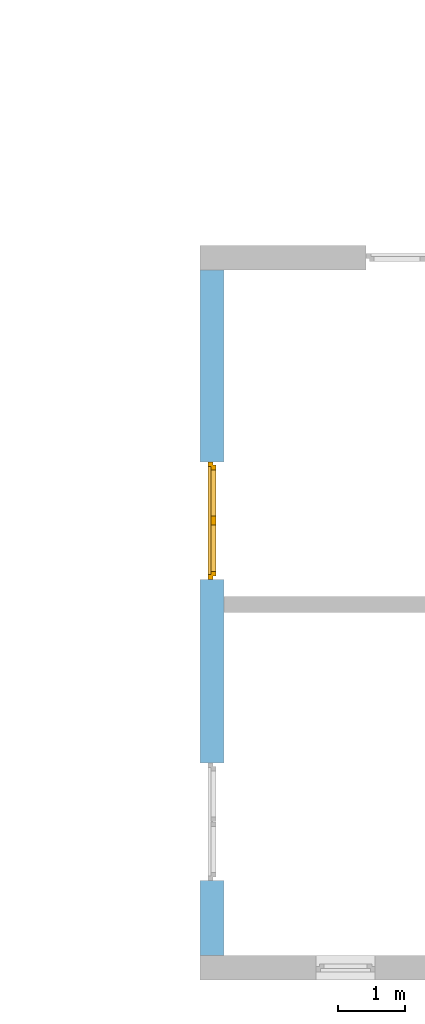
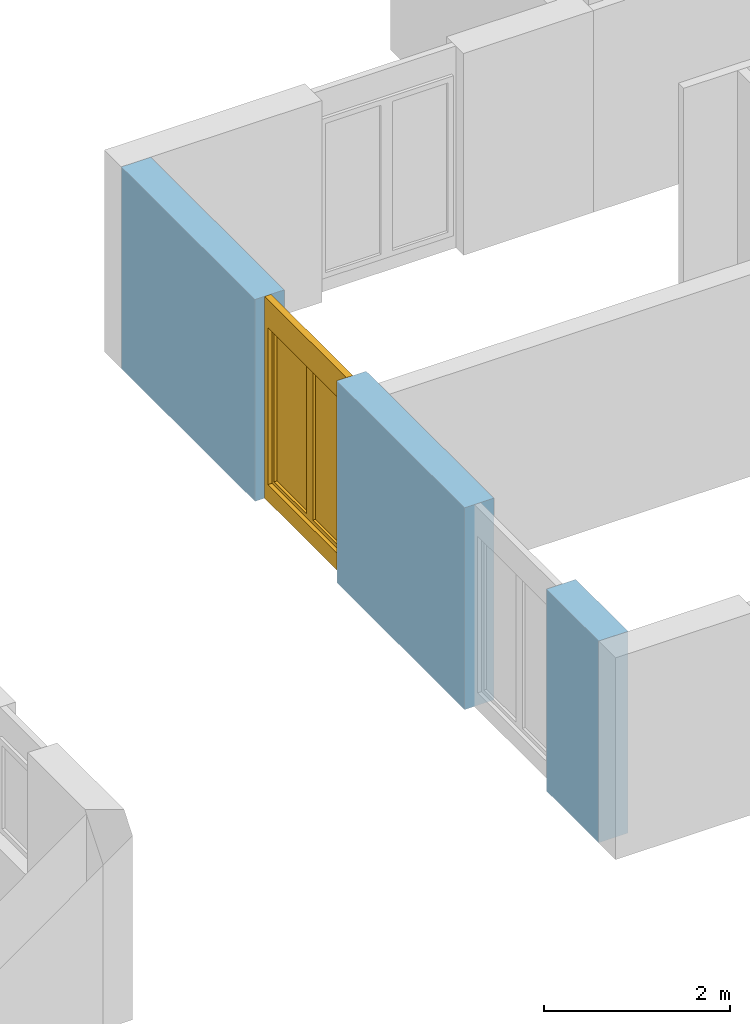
# One storey, part 15 of 42: 1 window, 2 openings, plus 1 element that does not belong to this part.
"""IFC2X3 building model written with IfcOpenShell, lengths in millimetres."""

from ifc_helpers import new_model, entity, si_unit, converted_unit, frame, frame_2d, origin, origin_with_axes, place, context, subcontext, project, spatial, rectangle, extrude, faceted_brep, material, layer, layer_set, layer_usage, type_object, element, fill, save


model = new_model("IFC2X3")

# Units and contexts
model_context = context("Model", 3, precision=1e-05, world=origin())
body_context = subcontext(model_context, "Body", "Model", "MODEL_VIEW")
ifc_project = project(units=[si_unit("LENGTHUNIT", "METRE", prefix="MILLI"), converted_unit("PLANEANGLEUNIT", "DEGREE", entity("IfcPlaneAngleMeasure", 0.0174532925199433), si_unit("PLANEANGLEUNIT", "RADIAN"), dimensions=[0, 0, 0, 0, 0, 0, 0]), si_unit("AREAUNIT", "SQUARE_METRE"), si_unit("VOLUMEUNIT", "CUBIC_METRE")], contexts=[model_context])

# Building, storey
building_placement = place(None, origin())
building = spatial("IfcBuilding", under=ifc_project, at=building_placement, Name="Gebäude", CompositionType="ELEMENT")
storey_placement = place(building_placement, frame((0.0, 0.0, 2730.0), z_axis=(0.0, 0.0, 1.0), x_axis=(1.0, 0.0, 0.0)))
storey = spatial("IfcBuildingStorey", under=building, at=storey_placement, Name="OG.- Grundriss", CompositionType="ELEMENT", Elevation=2730.0)

# Wall, openings, window
ifc_material_1 = material(Name="Poroton")
ifc_layer = layer(ifc_material_1, 365.0)
ifc_layer_set = layer_set([ifc_layer])
ifc_layer_usage = layer_usage(ifc_layer_set, "AXIS2", "POSITIVE", 0.0)
wall_placement = place(storey_placement, frame((148357.7928067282, 135909.8877324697, 0.0), z_axis=(0.0, 0.0, 1.0), x_axis=(1.70032115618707e-14, -1.0, 0.0)))
wall = element("IfcWallStandardCase", 1, at=wall_placement, inside=storey, material=ifc_layer_usage, Name="<Unnamed Element>", context=body_context, shape_type="SweptSolid", body=[
    extrude(rectangle(XDim=10269.99999999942, YDim=365.0, at=frame_2d((5134.999999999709, 182.5), x_axis=(1.0, 0.0))), origin_with_axes(), (0.0, 0.0, 1.0), 2650.0),
])
opening_1_placement = place(wall_placement, frame((2874.999999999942, -2.54658516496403e-11, 0.0), z_axis=(0.0, 1.0, 0.0), x_axis=(0.0, 0.0, 1.0)))
opening_1 = element("IfcOpeningElement", 2, at=opening_1_placement, cuts=wall, Name="Fensteröffnung", ObjectType="Opening", context=body_context, shape_type="SweptSolid", body=[
    extrude(rectangle(XDim=2650.0, YDim=1760.0, at=frame_2d((1325.0, 880.0), x_axis=(1.0, 0.0))), origin_with_axes(), (0.0, 0.0, 1.0), 365.0),
])
opening_2_placement = place(wall_placement, frame((7384.999999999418, -9.851646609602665e-11, 0.0), z_axis=(0.0, 1.0, 0.0), x_axis=(0.0, 0.0, 1.0)))
element("IfcOpeningElement", 3, at=opening_2_placement, cuts=wall, Name="Fensteröffnung", ObjectType="Opening", context=body_context, shape_type="SweptSolid", body=[
    extrude(rectangle(XDim=2650.0, YDim=1760.0, at=frame_2d((1325.0, 880.0), x_axis=(1.0, 0.0))), origin_with_axes(), (0.0, 0.0, 1.0), 365.0),
])
ifc_material_2 = material()
window_style = type_object("IfcWindowStyle", Name="Fenster", ConstructionType="NOTDEFINED", OperationType="USERDEFINED", ParameterTakesPrecedence=False, Sizeable=False)
window_placement = place(opening_1_placement, frame((0.0, 0.0, 0.0), z_axis=(1.0, 0.0, 0.0), x_axis=(0.0, 1.0, 0.0)))
window = element("IfcWindow", 4, at=window_placement, inside=storey, type_object=window_style, material=ifc_material_2, Name="Fenster", OverallHeight=2650.0, OverallWidth=1760.0, context=body_context, shape_type="Brep", body=[
    faceted_brep([(1.35535833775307e-12, 200.0000000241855, 2650.0), (1.355358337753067e-12, 200.0000000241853, -2.449293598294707e-15), (70.00000000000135, 200.0000000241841, -2.449293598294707e-15), (70.00000000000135, 200.0000000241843, 2650.0), (0.0, 120.0000000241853, 2.449293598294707e-15), (2.648360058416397e-27, 120.0000000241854, 2650.0), (70.0, 120.0000000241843, 2650.0), (70.0, 120.0000000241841, 2.449293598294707e-15), (1.355358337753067e-12, 200.0000000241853, -2.449293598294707e-15), (1.35535833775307e-12, 200.0000000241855, 2650.0), (2.648360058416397e-27, 120.0000000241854, 2650.0), (0.0, 120.0000000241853, 2.449293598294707e-15), (70.00000000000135, 200.0000000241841, -2.449293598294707e-15), (1.355358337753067e-12, 200.0000000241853, -2.449293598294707e-15), (0.0, 120.0000000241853, 2.449293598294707e-15), (70.0, 120.0000000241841, 2.449293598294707e-15), (70.00000000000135, 200.0000000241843, 2650.0), (70.00000000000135, 200.0000000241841, -2.449293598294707e-15), (70.0, 120.0000000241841, 2.449293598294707e-15), (70.0, 120.0000000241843, 2650.0), (1.35535833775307e-12, 200.0000000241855, 2650.0), (70.00000000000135, 200.0000000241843, 2650.0), (70.0, 120.0000000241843, 2650.0), (2.648360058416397e-27, 120.0000000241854, 2650.0)], [[[0, 1, 2, 3]], [[4, 5, 6, 7]], [[8, 9, 10, 11]], [[12, 13, 14, 15]], [[16, 17, 18, 19]], [[20, 21, 22, 23]]], orient=[[False], [False], [False], [False], [False], [False]]),
    faceted_brep([(1690.000000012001, 200.0000000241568, 2650.0), (1690.000000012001, 200.0000000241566, -2.449293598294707e-15), (1760.000000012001, 200.0000000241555, -2.449293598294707e-15), (1760.000000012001, 200.0000000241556, 2650.0), (1690.000000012, 120.0000000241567, 2.449293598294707e-15), (1690.000000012, 120.0000000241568, 2650.0), (1760.000000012, 120.0000000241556, 2650.0), (1760.000000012, 120.0000000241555, 2.449293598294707e-15), (1690.000000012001, 200.0000000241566, -2.449293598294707e-15), (1690.000000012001, 200.0000000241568, 2650.0), (1690.000000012, 120.0000000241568, 2650.0), (1690.000000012, 120.0000000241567, 2.449293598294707e-15), (1760.000000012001, 200.0000000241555, -2.449293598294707e-15), (1690.000000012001, 200.0000000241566, -2.449293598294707e-15), (1690.000000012, 120.0000000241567, 2.449293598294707e-15), (1760.000000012, 120.0000000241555, 2.449293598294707e-15), (1760.000000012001, 200.0000000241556, 2650.0), (1760.000000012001, 200.0000000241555, -2.449293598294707e-15), (1760.000000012, 120.0000000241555, 2.449293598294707e-15), (1760.000000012, 120.0000000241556, 2650.0), (1690.000000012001, 200.0000000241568, 2650.0), (1760.000000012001, 200.0000000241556, 2650.0), (1760.000000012, 120.0000000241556, 2650.0), (1690.000000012, 120.0000000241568, 2650.0)], [[[0, 1, 2, 3]], [[4, 5, 6, 7]], [[8, 9, 10, 11]], [[12, 13, 14, 15]], [[16, 17, 18, 19]], [[20, 21, 22, 23]]], orient=[[False], [False], [False], [False], [False], [False]]),
    faceted_brep([(70.00000000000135, 200.0000000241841, 220.0), (70.00000000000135, 200.0000000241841, -2.449293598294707e-15), (1690.000000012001, 200.0000000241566, -2.449293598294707e-15), (1690.000000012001, 200.0000000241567, 220.0), (70.0, 120.0000000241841, 2.449293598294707e-15), (70.0, 120.0000000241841, 220.0), (1690.000000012, 120.0000000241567, 220.0), (1690.000000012, 120.0000000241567, 2.449293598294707e-15), (70.00000000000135, 200.0000000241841, -2.449293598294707e-15), (70.00000000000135, 200.0000000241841, 220.0), (70.0, 120.0000000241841, 220.0), (70.0, 120.0000000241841, 2.449293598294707e-15), (1690.000000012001, 200.0000000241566, -2.449293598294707e-15), (70.00000000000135, 200.0000000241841, -2.449293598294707e-15), (70.0, 120.0000000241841, 2.449293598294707e-15), (1690.000000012, 120.0000000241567, 2.449293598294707e-15), (1690.000000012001, 200.0000000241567, 220.0), (1690.000000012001, 200.0000000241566, -2.449293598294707e-15), (1690.000000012, 120.0000000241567, 2.449293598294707e-15), (1690.000000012, 120.0000000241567, 220.0), (70.00000000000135, 200.0000000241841, 220.0), (1690.000000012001, 200.0000000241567, 220.0), (1690.000000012, 120.0000000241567, 220.0), (70.0, 120.0000000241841, 220.0)], [[[0, 1, 2, 3]], [[4, 5, 6, 7]], [[8, 9, 10, 11]], [[12, 13, 14, 15]], [[16, 17, 18, 19]], [[20, 21, 22, 23]]], orient=[[False], [False], [False], [False], [False], [False]]),
    faceted_brep([(70.00000000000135, 200.0000000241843, 2650.0), (70.00000000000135, 200.0000000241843, 2280.0), (1690.000000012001, 200.0000000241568, 2280.0), (1690.000000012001, 200.0000000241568, 2650.0), (70.0, 120.0000000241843, 2280.0), (70.0, 120.0000000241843, 2650.0), (1690.000000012, 120.0000000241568, 2650.0), (1690.000000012, 120.0000000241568, 2280.0), (70.00000000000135, 200.0000000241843, 2280.0), (70.00000000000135, 200.0000000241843, 2650.0), (70.0, 120.0000000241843, 2650.0), (70.0, 120.0000000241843, 2280.0), (1690.000000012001, 200.0000000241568, 2280.0), (70.00000000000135, 200.0000000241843, 2280.0), (70.0, 120.0000000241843, 2280.0), (1690.000000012, 120.0000000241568, 2280.0), (1690.000000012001, 200.0000000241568, 2650.0), (1690.000000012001, 200.0000000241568, 2280.0), (1690.000000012, 120.0000000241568, 2280.0), (1690.000000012, 120.0000000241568, 2650.0), (70.00000000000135, 200.0000000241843, 2650.0), (1690.000000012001, 200.0000000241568, 2650.0), (1690.000000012, 120.0000000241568, 2650.0), (70.0, 120.0000000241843, 2650.0)], [[[0, 1, 2, 3]], [[4, 5, 6, 7]], [[8, 9, 10, 11]], [[12, 13, 14, 15]], [[16, 17, 18, 19]], [[20, 21, 22, 23]]], orient=[[False], [False], [False], [False], [False], [False]]),
    faceted_brep([(50.00000000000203, 240.0000000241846, 2300.0), (50.00000000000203, 240.0000000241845, 200.0), (120.000000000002, 240.0000000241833, 200.0), (120.000000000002, 240.0000000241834, 2300.0), (50.00000000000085, 170.0000000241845, 200.0), (50.00000000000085, 170.0000000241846, 2300.0), (120.0000000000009, 170.0000000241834, 2300.0), (120.0000000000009, 170.0000000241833, 200.0), (50.00000000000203, 240.0000000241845, 200.0), (50.00000000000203, 240.0000000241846, 2300.0), (50.00000000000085, 170.0000000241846, 2300.0), (50.00000000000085, 170.0000000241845, 200.0), (120.000000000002, 240.0000000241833, 200.0), (50.00000000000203, 240.0000000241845, 200.0), (50.00000000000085, 170.0000000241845, 200.0), (120.0000000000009, 170.0000000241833, 200.0), (120.000000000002, 240.0000000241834, 2300.0), (120.000000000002, 240.0000000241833, 200.0), (120.0000000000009, 170.0000000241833, 200.0), (120.0000000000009, 170.0000000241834, 2300.0), (50.00000000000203, 240.0000000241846, 2300.0), (120.000000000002, 240.0000000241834, 2300.0), (120.0000000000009, 170.0000000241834, 2300.0), (50.00000000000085, 170.0000000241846, 2300.0)], [[[0, 1, 2, 3]], [[4, 5, 6, 7]], [[8, 9, 10, 11]], [[12, 13, 14, 15]], [[16, 17, 18, 19]], [[20, 21, 22, 23]]], orient=[[False], [False], [False], [False], [False], [False]]),
    faceted_brep([(809.500000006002, 240.0000000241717, 2300.0), (809.500000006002, 240.0000000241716, 200.0), (879.500000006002, 240.0000000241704, 200.0), (879.500000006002, 240.0000000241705, 2300.0), (809.5000000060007, 170.0000000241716, 200.0), (809.5000000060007, 170.0000000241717, 2300.0), (879.5000000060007, 170.0000000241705, 2300.0), (879.5000000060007, 170.0000000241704, 200.0), (809.500000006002, 240.0000000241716, 200.0), (809.500000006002, 240.0000000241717, 2300.0), (809.5000000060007, 170.0000000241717, 2300.0), (809.5000000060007, 170.0000000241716, 200.0), (879.500000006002, 240.0000000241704, 200.0), (809.500000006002, 240.0000000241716, 200.0), (809.5000000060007, 170.0000000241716, 200.0), (879.5000000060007, 170.0000000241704, 200.0), (879.500000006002, 240.0000000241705, 2300.0), (879.500000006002, 240.0000000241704, 200.0), (879.5000000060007, 170.0000000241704, 200.0), (879.5000000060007, 170.0000000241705, 2300.0), (809.500000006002, 240.0000000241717, 2300.0), (879.500000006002, 240.0000000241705, 2300.0), (879.5000000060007, 170.0000000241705, 2300.0), (809.5000000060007, 170.0000000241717, 2300.0)], [[[0, 1, 2, 3]], [[4, 5, 6, 7]], [[8, 9, 10, 11]], [[12, 13, 14, 15]], [[16, 17, 18, 19]], [[20, 21, 22, 23]]], orient=[[False], [False], [False], [False], [False], [False]]),
    faceted_brep([(120.000000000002, 240.0000000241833, 270.0), (120.000000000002, 240.0000000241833, 200.0), (809.5000000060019, 240.0000000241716, 200.0), (809.5000000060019, 240.0000000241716, 270.0), (120.0000000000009, 170.0000000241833, 200.0), (120.0000000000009, 170.0000000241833, 270.0), (809.5000000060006, 170.0000000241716, 270.0), (809.5000000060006, 170.0000000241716, 200.0), (120.000000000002, 240.0000000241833, 200.0), (120.000000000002, 240.0000000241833, 270.0), (120.0000000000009, 170.0000000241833, 270.0), (120.0000000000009, 170.0000000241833, 200.0), (809.5000000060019, 240.0000000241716, 200.0), (120.000000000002, 240.0000000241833, 200.0), (120.0000000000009, 170.0000000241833, 200.0), (809.5000000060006, 170.0000000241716, 200.0), (809.5000000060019, 240.0000000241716, 270.0), (809.5000000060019, 240.0000000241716, 200.0), (809.5000000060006, 170.0000000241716, 200.0), (809.5000000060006, 170.0000000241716, 270.0), (120.000000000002, 240.0000000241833, 270.0), (809.5000000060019, 240.0000000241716, 270.0), (809.5000000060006, 170.0000000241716, 270.0), (120.0000000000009, 170.0000000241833, 270.0)], [[[0, 1, 2, 3]], [[4, 5, 6, 7]], [[8, 9, 10, 11]], [[12, 13, 14, 15]], [[16, 17, 18, 19]], [[20, 21, 22, 23]]], orient=[[False], [False], [False], [False], [False], [False]]),
    faceted_brep([(120.000000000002, 240.0000000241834, 2300.0), (120.000000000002, 240.0000000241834, 2230.0), (809.5000000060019, 240.0000000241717, 2230.0), (809.5000000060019, 240.0000000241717, 2300.0), (120.0000000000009, 170.0000000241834, 2230.0), (120.0000000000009, 170.0000000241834, 2300.0), (809.5000000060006, 170.0000000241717, 2300.0), (809.5000000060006, 170.0000000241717, 2230.0), (120.000000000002, 240.0000000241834, 2230.0), (120.000000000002, 240.0000000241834, 2300.0), (120.0000000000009, 170.0000000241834, 2300.0), (120.0000000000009, 170.0000000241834, 2230.0), (809.5000000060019, 240.0000000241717, 2230.0), (120.000000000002, 240.0000000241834, 2230.0), (120.0000000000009, 170.0000000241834, 2230.0), (809.5000000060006, 170.0000000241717, 2230.0), (809.5000000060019, 240.0000000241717, 2300.0), (809.5000000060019, 240.0000000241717, 2230.0), (809.5000000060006, 170.0000000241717, 2230.0), (809.5000000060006, 170.0000000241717, 2300.0), (120.000000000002, 240.0000000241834, 2300.0), (809.5000000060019, 240.0000000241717, 2300.0), (809.5000000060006, 170.0000000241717, 2300.0), (120.0000000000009, 170.0000000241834, 2300.0)], [[[0, 1, 2, 3]], [[4, 5, 6, 7]], [[8, 9, 10, 11]], [[12, 13, 14, 15]], [[16, 17, 18, 19]], [[20, 21, 22, 23]]], orient=[[False], [False], [False], [False], [False], [False]]),
    faceted_brep([(880.500000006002, 240.0000000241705, 2300.0), (880.500000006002, 240.0000000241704, 200.0), (950.500000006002, 240.0000000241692, 200.0), (950.500000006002, 240.0000000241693, 2300.0), (880.5000000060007, 170.0000000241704, 200.0), (880.5000000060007, 170.0000000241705, 2300.0), (950.5000000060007, 170.0000000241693, 2300.0), (950.5000000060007, 170.0000000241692, 200.0), (880.500000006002, 240.0000000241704, 200.0), (880.500000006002, 240.0000000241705, 2300.0), (880.5000000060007, 170.0000000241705, 2300.0), (880.5000000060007, 170.0000000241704, 200.0), (950.500000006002, 240.0000000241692, 200.0), (880.500000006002, 240.0000000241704, 200.0), (880.5000000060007, 170.0000000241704, 200.0), (950.5000000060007, 170.0000000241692, 200.0), (950.500000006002, 240.0000000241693, 2300.0), (950.500000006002, 240.0000000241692, 200.0), (950.5000000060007, 170.0000000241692, 200.0), (950.5000000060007, 170.0000000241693, 2300.0), (880.500000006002, 240.0000000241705, 2300.0), (950.500000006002, 240.0000000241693, 2300.0), (950.5000000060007, 170.0000000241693, 2300.0), (880.5000000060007, 170.0000000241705, 2300.0)], [[[0, 1, 2, 3]], [[4, 5, 6, 7]], [[8, 9, 10, 11]], [[12, 13, 14, 15]], [[16, 17, 18, 19]], [[20, 21, 22, 23]]], orient=[[False], [False], [False], [False], [False], [False]]),
    faceted_brep([(1640.000000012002, 240.0000000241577, 2300.0), (1640.000000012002, 240.0000000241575, 200.0), (1710.000000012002, 240.0000000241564, 200.0), (1710.000000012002, 240.0000000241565, 2300.0), (1640.000000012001, 170.0000000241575, 200.0), (1640.000000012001, 170.0000000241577, 2300.0), (1710.000000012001, 170.0000000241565, 2300.0), (1710.000000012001, 170.0000000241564, 200.0), (1640.000000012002, 240.0000000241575, 200.0), (1640.000000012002, 240.0000000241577, 2300.0), (1640.000000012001, 170.0000000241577, 2300.0), (1640.000000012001, 170.0000000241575, 200.0), (1710.000000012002, 240.0000000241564, 200.0), (1640.000000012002, 240.0000000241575, 200.0), (1640.000000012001, 170.0000000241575, 200.0), (1710.000000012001, 170.0000000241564, 200.0), (1710.000000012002, 240.0000000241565, 2300.0), (1710.000000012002, 240.0000000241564, 200.0), (1710.000000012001, 170.0000000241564, 200.0), (1710.000000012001, 170.0000000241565, 2300.0), (1640.000000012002, 240.0000000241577, 2300.0), (1710.000000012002, 240.0000000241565, 2300.0), (1710.000000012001, 170.0000000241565, 2300.0), (1640.000000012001, 170.0000000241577, 2300.0)], [[[0, 1, 2, 3]], [[4, 5, 6, 7]], [[8, 9, 10, 11]], [[12, 13, 14, 15]], [[16, 17, 18, 19]], [[20, 21, 22, 23]]], orient=[[False], [False], [False], [False], [False], [False]]),
    faceted_brep([(950.500000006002, 240.0000000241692, 270.0), (950.500000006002, 240.0000000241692, 200.0), (1640.000000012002, 240.0000000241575, 200.0), (1640.000000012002, 240.0000000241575, 270.0), (950.5000000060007, 170.0000000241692, 200.0), (950.5000000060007, 170.0000000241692, 270.0), (1640.000000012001, 170.0000000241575, 270.0), (1640.000000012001, 170.0000000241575, 200.0), (950.500000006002, 240.0000000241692, 200.0), (950.500000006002, 240.0000000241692, 270.0), (950.5000000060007, 170.0000000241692, 270.0), (950.5000000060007, 170.0000000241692, 200.0), (1640.000000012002, 240.0000000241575, 200.0), (950.500000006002, 240.0000000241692, 200.0), (950.5000000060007, 170.0000000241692, 200.0), (1640.000000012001, 170.0000000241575, 200.0), (1640.000000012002, 240.0000000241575, 270.0), (1640.000000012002, 240.0000000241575, 200.0), (1640.000000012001, 170.0000000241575, 200.0), (1640.000000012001, 170.0000000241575, 270.0), (950.500000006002, 240.0000000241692, 270.0), (1640.000000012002, 240.0000000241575, 270.0), (1640.000000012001, 170.0000000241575, 270.0), (950.5000000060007, 170.0000000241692, 270.0)], [[[0, 1, 2, 3]], [[4, 5, 6, 7]], [[8, 9, 10, 11]], [[12, 13, 14, 15]], [[16, 17, 18, 19]], [[20, 21, 22, 23]]], orient=[[False], [False], [False], [False], [False], [False]]),
    faceted_brep([(950.500000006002, 240.0000000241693, 2300.0), (950.500000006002, 240.0000000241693, 2230.0), (1640.000000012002, 240.0000000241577, 2230.0), (1640.000000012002, 240.0000000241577, 2300.0), (950.5000000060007, 170.0000000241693, 2230.0), (950.5000000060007, 170.0000000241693, 2300.0), (1640.000000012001, 170.0000000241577, 2300.0), (1640.000000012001, 170.0000000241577, 2230.0), (950.500000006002, 240.0000000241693, 2230.0), (950.500000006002, 240.0000000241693, 2300.0), (950.5000000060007, 170.0000000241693, 2300.0), (950.5000000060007, 170.0000000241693, 2230.0), (1640.000000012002, 240.0000000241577, 2230.0), (950.500000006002, 240.0000000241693, 2230.0), (950.5000000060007, 170.0000000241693, 2230.0), (1640.000000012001, 170.0000000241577, 2230.0), (1640.000000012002, 240.0000000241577, 2300.0), (1640.000000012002, 240.0000000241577, 2230.0), (1640.000000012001, 170.0000000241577, 2230.0), (1640.000000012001, 170.0000000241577, 2300.0), (950.500000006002, 240.0000000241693, 2300.0), (1640.000000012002, 240.0000000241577, 2300.0), (1640.000000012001, 170.0000000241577, 2300.0), (950.5000000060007, 170.0000000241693, 2300.0)], [[[0, 1, 2, 3]], [[4, 5, 6, 7]], [[8, 9, 10, 11]], [[12, 13, 14, 15]], [[16, 17, 18, 19]], [[20, 21, 22, 23]]], orient=[[False], [False], [False], [False], [False], [False]]),
    faceted_brep([(120.0000000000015, 205.0000000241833, 270.0), (809.5000000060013, 205.0000000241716, 270.0), (809.5000000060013, 205.0000000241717, 2229.999999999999), (120.0000000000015, 205.0000000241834, 2229.999999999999), (120.0000000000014, 204.0000000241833, 270.0), (120.0000000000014, 204.0000000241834, 2229.999999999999), (809.5000000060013, 204.0000000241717, 2229.999999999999), (809.5000000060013, 204.0000000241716, 270.0), (120.0000000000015, 205.0000000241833, 270.0), (120.0000000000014, 204.0000000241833, 270.0), (809.5000000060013, 204.0000000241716, 270.0), (809.5000000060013, 205.0000000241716, 270.0), (809.5000000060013, 205.0000000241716, 270.0), (809.5000000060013, 204.0000000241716, 270.0), (809.5000000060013, 204.0000000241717, 2229.999999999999), (809.5000000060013, 205.0000000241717, 2229.999999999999), (809.5000000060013, 205.0000000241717, 2229.999999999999), (809.5000000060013, 204.0000000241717, 2229.999999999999), (120.0000000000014, 204.0000000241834, 2229.999999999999), (120.0000000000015, 205.0000000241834, 2229.999999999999), (120.0000000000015, 205.0000000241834, 2229.999999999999), (120.0000000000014, 204.0000000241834, 2229.999999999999), (120.0000000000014, 204.0000000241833, 270.0), (120.0000000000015, 205.0000000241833, 270.0)], [[[0, 1, 2, 3]], [[4, 5, 6, 7]], [[8, 9, 10, 11]], [[12, 13, 14, 15]], [[16, 17, 18, 19]], [[20, 21, 22, 23]]], orient=[[False], [False], [False], [False], [False], [False]]),
    faceted_brep([(950.5000000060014, 205.0000000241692, 270.0), (1640.000000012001, 205.0000000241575, 270.0), (1640.000000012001, 205.0000000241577, 2229.999999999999), (950.5000000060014, 205.0000000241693, 2229.999999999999), (950.5000000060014, 204.0000000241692, 270.0), (950.5000000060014, 204.0000000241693, 2229.999999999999), (1640.000000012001, 204.0000000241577, 2229.999999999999), (1640.000000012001, 204.0000000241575, 270.0), (950.5000000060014, 205.0000000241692, 270.0), (950.5000000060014, 204.0000000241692, 270.0), (1640.000000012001, 204.0000000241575, 270.0), (1640.000000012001, 205.0000000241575, 270.0), (1640.000000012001, 205.0000000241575, 270.0), (1640.000000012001, 204.0000000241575, 270.0), (1640.000000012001, 204.0000000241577, 2229.999999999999), (1640.000000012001, 205.0000000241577, 2229.999999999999), (1640.000000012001, 205.0000000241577, 2229.999999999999), (1640.000000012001, 204.0000000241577, 2229.999999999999), (950.5000000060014, 204.0000000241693, 2229.999999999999), (950.5000000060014, 205.0000000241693, 2229.999999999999), (950.5000000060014, 205.0000000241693, 2229.999999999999), (950.5000000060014, 204.0000000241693, 2229.999999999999), (950.5000000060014, 204.0000000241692, 270.0), (950.5000000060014, 205.0000000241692, 270.0)], [[[0, 1, 2, 3]], [[4, 5, 6, 7]], [[8, 9, 10, 11]], [[12, 13, 14, 15]], [[16, 17, 18, 19]], [[20, 21, 22, 23]]], orient=[[False], [False], [False], [False], [False], [False]]),
])
fill(opening_1, window)

save(model, "model.ifc")
